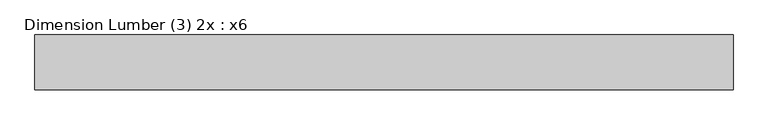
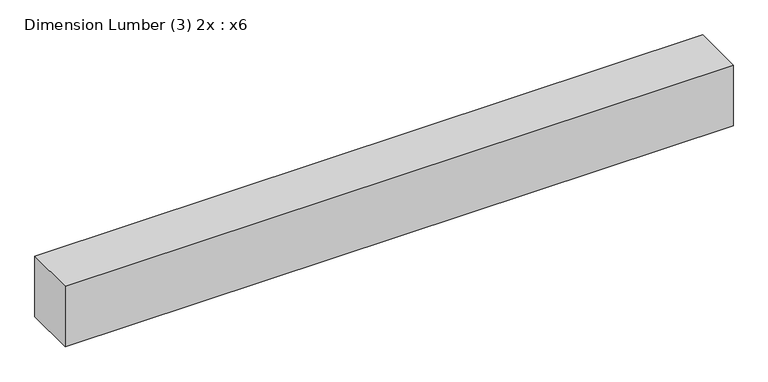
"""IFC4 building model written with IfcOpenShell, lengths in millimetres: beam geometry, Dimension Lumber (3) 2x : x6."""

from ifc_helpers import new_model, si_unit, frame, origin, place, context, project, spatial, polyline, outline, extrude, source, transform, mapped, element, save


def dimension_lumber_3_2x_x6_f7559ddf(model_context):
    return source(origin(), model_context, "Body", "SweptSolid", [
        extrude(outline(polyline([(702.564, 57.15), (702.564, -57.15), (-751.586, -57.15), (-751.586, 57.15), (702.564, 57.15)])), frame((0.0, 0.0, -69.85), z_axis=(0.0, 0.0, 1.0), x_axis=(1.0, 0.0, 0.0)), (0.0, 0.0, 1.0), 139.7),
    ])


if __name__ == "__main__":
    model = new_model("IFC4")
    model_context = context("Model", 3, world=origin())
    ifc_project = project(units=[si_unit("LENGTHUNIT", "METRE", prefix="MILLI")], contexts=[model_context])
    site = spatial("IfcSite", under=ifc_project)
    building = spatial("IfcBuilding", under=site)
    placement = place(None, origin())
    dimension_lumber_3_2x_x6_shape = dimension_lumber_3_2x_x6_f7559ddf(model_context)
    element("IfcBeam", 1, ObjectType="Dimension Lumber (3) 2x : x6", at=placement, inside=building, context=model_context, shape_type="MappedRepresentation", body=[
        mapped(dimension_lumber_3_2x_x6_shape, transform((0.0, 0.0, 0.0), x_axis=(1.0, 0.0, 0.0), y_axis=(0.0, 1.0, 0.0), z_axis=(0.0, 0.0, 1.0))),
    ])
    save(model, "model.ifc")
